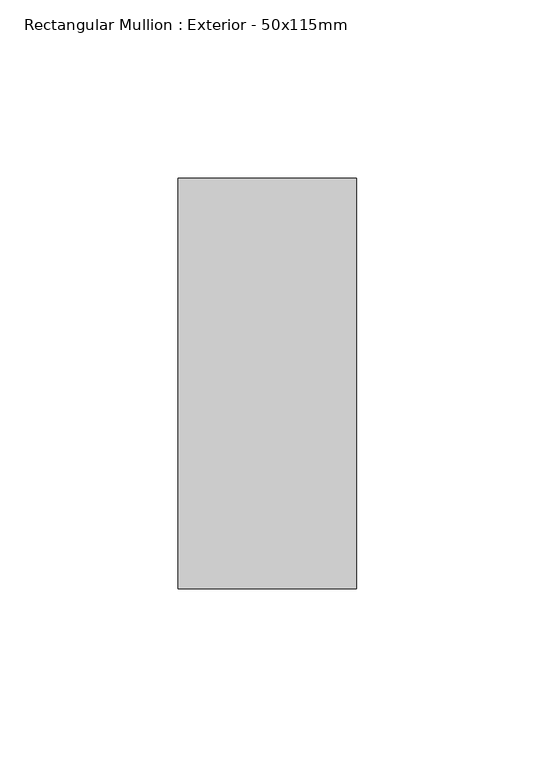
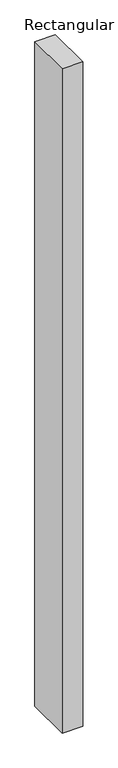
"""IFC4 building model written with IfcOpenShell, lengths in millimetres: member geometry, Rectangular Mullion : Exterior - 50x115mm."""

from ifc_helpers import new_model, si_unit, frame, origin, place, context, project, spatial, polyline, outline, extrude, source, transform, mapped, element, save


def rectangular_mullion_exterior_50x115mm_8ba670b4(model_context):
    return source(origin(), model_context, "Body", "SweptSolid", [
        extrude(outline(polyline([(0.0, 107.5), (0.0, -7.5), (-50.0, -7.5), (-50.0, 107.5), (0.0, 107.5)])), frame((0.0, 0.0, -1712.5), z_axis=(0.0, 0.0, 1.0), x_axis=(1.0, 0.0, 0.0)), (0.0, 0.0, 1.0), 1712.5),
    ])


if __name__ == "__main__":
    model = new_model("IFC4")
    model_context = context("Model", 3, world=origin())
    ifc_project = project(units=[si_unit("LENGTHUNIT", "METRE", prefix="MILLI")], contexts=[model_context])
    site = spatial("IfcSite", under=ifc_project)
    building = spatial("IfcBuilding", under=site)
    placement = place(None, origin())
    rectangular_mullion_exterior_50x115mm_shape = rectangular_mullion_exterior_50x115mm_8ba670b4(model_context)
    element("IfcMember", 1, ObjectType="Rectangular Mullion : Exterior - 50x115mm", at=placement, inside=building, context=model_context, shape_type="MappedRepresentation", body=[
        mapped(rectangular_mullion_exterior_50x115mm_shape, transform((0.0, 0.0, 0.0), x_axis=(1.0, 0.0, 0.0), y_axis=(0.0, 1.0, 0.0), z_axis=(0.0, 0.0, 1.0))),
    ])
    save(model, "model.ifc")
